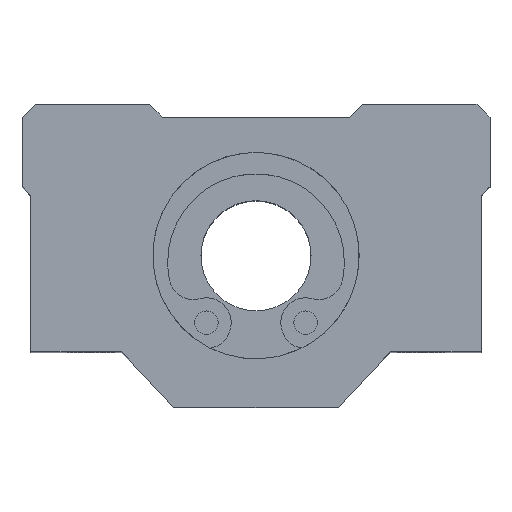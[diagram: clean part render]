
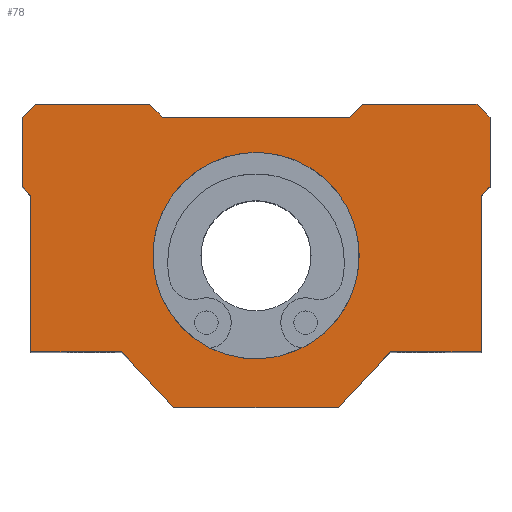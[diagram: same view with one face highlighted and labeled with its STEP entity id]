
A CAD part, top view. The second image highlights one B-rep face of the part: STEP entity #78.
In plain terms, the highlighted planar face has unit normal (0, 0, 1).
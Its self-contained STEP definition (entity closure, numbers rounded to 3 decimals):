
#78=ADVANCED_FACE('',(#143,#144),#145,.T.);
#143=FACE_OUTER_BOUND('',#296,.T.);
#144=FACE_BOUND('',#297,.T.);
#145=PLANE('',#298);
#296=EDGE_LOOP('',(#464,#465,#466,#467,#468,#469,#470,#471,#472,#473,#474,#475,#476,#477,#478,#479,#480,#481));
#297=EDGE_LOOP('',(#482));
#298=AXIS2_PLACEMENT_3D('',#483,#484,#485);
#464=ORIENTED_EDGE('',*,*,#913,.T.);
#465=ORIENTED_EDGE('',*,*,#914,.T.);
#466=ORIENTED_EDGE('',*,*,#915,.T.);
#467=ORIENTED_EDGE('',*,*,#916,.T.);
#468=ORIENTED_EDGE('',*,*,#917,.T.);
#469=ORIENTED_EDGE('',*,*,#918,.T.);
#470=ORIENTED_EDGE('',*,*,#919,.T.);
#471=ORIENTED_EDGE('',*,*,#920,.T.);
#472=ORIENTED_EDGE('',*,*,#921,.T.);
#473=ORIENTED_EDGE('',*,*,#922,.T.);
#474=ORIENTED_EDGE('',*,*,#923,.T.);
#475=ORIENTED_EDGE('',*,*,#924,.T.);
#476=ORIENTED_EDGE('',*,*,#925,.T.);
#477=ORIENTED_EDGE('',*,*,#926,.T.);
#478=ORIENTED_EDGE('',*,*,#927,.T.);
#479=ORIENTED_EDGE('',*,*,#928,.T.);
#480=ORIENTED_EDGE('',*,*,#929,.T.);
#481=ORIENTED_EDGE('',*,*,#930,.T.);
#482=ORIENTED_EDGE('',*,*,#931,.T.);
#483=CARTESIAN_POINT('',(-11.9,15.156,15.0));
#484=DIRECTION('',(0.0,-0.0,1.0));
#485=DIRECTION('',(0.0,1.0,0.0));
#913=EDGE_CURVE('',#1061,#1062,#1063,.T.);
#914=EDGE_CURVE('',#1062,#1064,#1065,.T.);
#915=EDGE_CURVE('',#1064,#1066,#1067,.T.);
#916=EDGE_CURVE('',#1066,#1068,#1069,.T.);
#917=EDGE_CURVE('',#1068,#1070,#1071,.T.);
#918=EDGE_CURVE('',#1070,#1072,#1073,.T.);
#919=EDGE_CURVE('',#1072,#1074,#1075,.T.);
#920=EDGE_CURVE('',#1074,#1076,#1077,.T.);
#921=EDGE_CURVE('',#1076,#1078,#1079,.T.);
#922=EDGE_CURVE('',#1078,#1080,#1081,.T.);
#923=EDGE_CURVE('',#1080,#1082,#1083,.T.);
#924=EDGE_CURVE('',#1082,#1084,#1085,.T.);
#925=EDGE_CURVE('',#1084,#1086,#1087,.T.);
#926=EDGE_CURVE('',#1086,#1088,#1089,.T.);
#927=EDGE_CURVE('',#1088,#1090,#1091,.T.);
#928=EDGE_CURVE('',#1090,#1092,#1093,.T.);
#929=EDGE_CURVE('',#1092,#1094,#1095,.T.);
#930=EDGE_CURVE('',#1094,#1061,#1096,.T.);
#931=EDGE_CURVE('',#1097,#1097,#1098,.F.);
#1061=VERTEX_POINT('',#1306);
#1062=VERTEX_POINT('',#1307);
#1063=LINE('',#1308,#1309);
#1064=VERTEX_POINT('',#1310);
#1065=LINE('',#1311,#1312);
#1066=VERTEX_POINT('',#1313);
#1067=LINE('',#1314,#1315);
#1068=VERTEX_POINT('',#1316);
#1069=LINE('',#1317,#1318);
#1070=VERTEX_POINT('',#1319);
#1071=LINE('',#1320,#1321);
#1072=VERTEX_POINT('',#1322);
#1073=LINE('',#1323,#1324);
#1074=VERTEX_POINT('',#1325);
#1075=LINE('',#1326,#1327);
#1076=VERTEX_POINT('',#1328);
#1077=LINE('',#1329,#1330);
#1078=VERTEX_POINT('',#1331);
#1079=LINE('',#1332,#1333);
#1080=VERTEX_POINT('',#1334);
#1081=LINE('',#1335,#1336);
#1082=VERTEX_POINT('',#1337);
#1083=LINE('',#1338,#1339);
#1084=VERTEX_POINT('',#1340);
#1085=LINE('',#1341,#1342);
#1086=VERTEX_POINT('',#1343);
#1087=LINE('',#1344,#1345);
#1088=VERTEX_POINT('',#1346);
#1089=LINE('',#1347,#1348);
#1090=VERTEX_POINT('',#1349);
#1091=LINE('',#1350,#1351);
#1092=VERTEX_POINT('',#1352);
#1093=LINE('',#1353,#1354);
#1094=VERTEX_POINT('',#1355);
#1095=LINE('',#1356,#1357);
#1096=LINE('',#1358,#1359);
#1097=VERTEX_POINT('',#1360);
#1098=CIRCLE('',#1361,7.5);
#1306=CARTESIAN_POINT('',(-6.8,10.056,15.0));
#1307=CARTESIAN_POINT('',(-7.744,11.0,15.0));
#1308=CARTESIAN_POINT('',(-6.8,10.056,15.0));
#1309=VECTOR('',#1617,1.0);
#1310=CARTESIAN_POINT('',(-16.056,11.0,15.0));
#1311=CARTESIAN_POINT('',(-7.744,11.0,15.0));
#1312=VECTOR('',#1618,1.0);
#1313=CARTESIAN_POINT('',(-17.0,10.056,15.0));
#1314=CARTESIAN_POINT('',(-16.056,11.0,15.0));
#1315=VECTOR('',#1619,1.0);
#1316=CARTESIAN_POINT('',(-17.0,5.0,15.0));
#1317=CARTESIAN_POINT('',(-17.0,10.056,15.0));
#1318=VECTOR('',#1620,1.0);
#1319=CARTESIAN_POINT('',(-16.37,4.37,15.0));
#1320=CARTESIAN_POINT('',(-17.0,5.0,15.0));
#1321=VECTOR('',#1621,1.0);
#1322=CARTESIAN_POINT('',(-16.37,-7.0,15.0));
#1323=CARTESIAN_POINT('',(-16.37,4.37,15.0));
#1324=VECTOR('',#1622,1.0);
#1325=CARTESIAN_POINT('',(-9.759,-7.,15.0));
#1326=CARTESIAN_POINT('',(-16.37,-7.0,15.0));
#1327=VECTOR('',#1623,1.0);
#1328=CARTESIAN_POINT('',(-5.981,-11.0,15.0));
#1329=CARTESIAN_POINT('',(-9.759,-7.,15.0));
#1330=VECTOR('',#1624,1.0);
#1331=CARTESIAN_POINT('',(5.981,-11.0,15.0));
#1332=CARTESIAN_POINT('',(-5.981,-11.0,15.0));
#1333=VECTOR('',#1625,1.0);
#1334=CARTESIAN_POINT('',(9.759,-7.,15.0));
#1335=CARTESIAN_POINT('',(5.981,-11.0,15.0));
#1336=VECTOR('',#1626,1.0);
#1337=CARTESIAN_POINT('',(16.37,-7.,15.0));
#1338=CARTESIAN_POINT('',(9.759,-7.,15.0));
#1339=VECTOR('',#1627,1.0);
#1340=CARTESIAN_POINT('',(16.37,4.374,15.0));
#1341=CARTESIAN_POINT('',(16.37,-7.,15.0));
#1342=VECTOR('',#1628,1.0);
#1343=CARTESIAN_POINT('',(17.0,5.004,15.0));
#1344=CARTESIAN_POINT('',(16.37,4.374,15.0));
#1345=VECTOR('',#1629,1.0);
#1346=CARTESIAN_POINT('',(17.0,10.056,15.0));
#1347=CARTESIAN_POINT('',(17.0,5.004,15.0));
#1348=VECTOR('',#1630,1.0);
#1349=CARTESIAN_POINT('',(16.056,11.0,15.0));
#1350=CARTESIAN_POINT('',(17.0,10.056,15.0));
#1351=VECTOR('',#1631,1.0);
#1352=CARTESIAN_POINT('',(7.744,11.0,15.0));
#1353=CARTESIAN_POINT('',(16.056,11.0,15.0));
#1354=VECTOR('',#1632,1.0);
#1355=CARTESIAN_POINT('',(6.8,10.056,15.0));
#1356=CARTESIAN_POINT('',(7.744,11.0,15.0));
#1357=VECTOR('',#1633,1.0);
#1358=CARTESIAN_POINT('',(6.8,10.056,15.0));
#1359=VECTOR('',#1634,1.0);
#1360=CARTESIAN_POINT('',(7.5,0.,15.0));
#1361=AXIS2_PLACEMENT_3D('',#1635,#1636,#1637);
#1617=DIRECTION('',(-0.707,0.707,0.0));
#1618=DIRECTION('',(-1.0,0.0,0.0));
#1619=DIRECTION('',(-0.707,-0.707,0.0));
#1620=DIRECTION('',(0.0,-1.0,0.0));
#1621=DIRECTION('',(0.707,-0.707,0.0));
#1622=DIRECTION('',(0.0,-1.0,0.0));
#1623=DIRECTION('',(1.0,0.,0.0));
#1624=DIRECTION('',(0.687,-0.727,0.0));
#1625=DIRECTION('',(1.0,0.0,0.0));
#1626=DIRECTION('',(0.687,0.727,0.0));
#1627=DIRECTION('',(1.0,0.0,0.0));
#1628=DIRECTION('',(0.,1.0,0.0));
#1629=DIRECTION('',(0.707,0.707,0.0));
#1630=DIRECTION('',(0.0,1.0,0.0));
#1631=DIRECTION('',(-0.707,0.707,0.0));
#1632=DIRECTION('',(-1.0,0.0,0.0));
#1633=DIRECTION('',(-0.707,-0.707,0.0));
#1634=DIRECTION('',(-1.0,0.0,0.0));
#1635=CARTESIAN_POINT('',(0.0,0.0,15.0));
#1636=DIRECTION('',(0.0,0.0,1.0));
#1637=DIRECTION('',(1.0,0.0,0.0));
